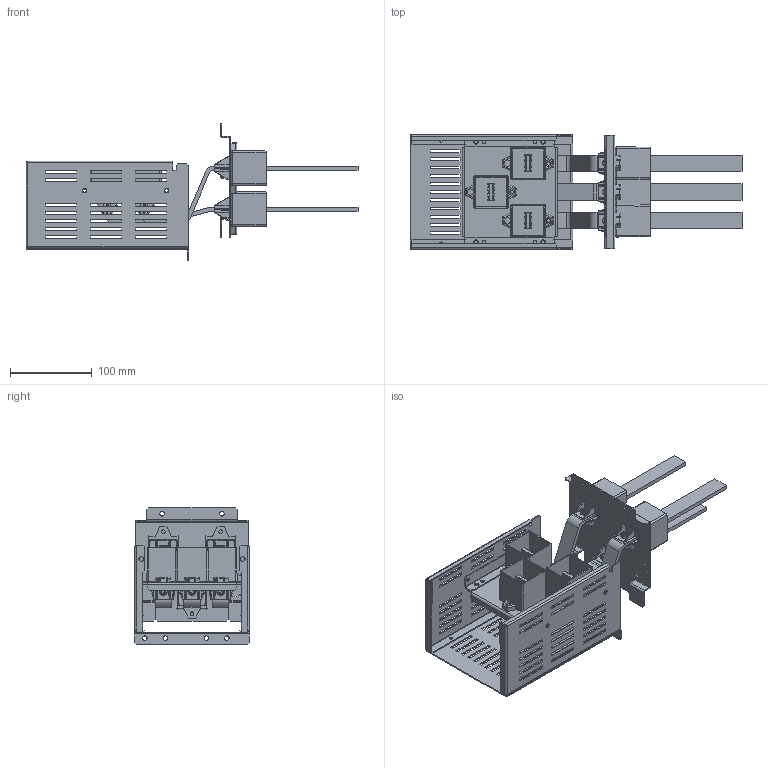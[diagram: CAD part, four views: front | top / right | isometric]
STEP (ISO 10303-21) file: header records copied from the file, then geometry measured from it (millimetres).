
FILE_DESCRIPTION(('CAx-IF Rec.Pracs.---Model Styling and Organization---1.2---2011-12-15','CAx-IF Rec.Pracs.---Geometric and Assembly Validation Properties---4.1---2014-06-16','CAx-IF Rec.Pracs.---PMI Polyline Presentation---2.0---2013-05-24'),'2;1');
FILE_NAME('R5M2W3MST3B.stp','2021-05-05T13:05:17+03:00',(''),(''),'STEP Interface 4.4 by CT CoreTechnologie','3D_Evolution4.4 by CT CoreTechnologie','');
FILE_SCHEMA(('AUTOMOTIVE_DESIGN { 1 0 10303 214 1 1 1 1 }'));
Length unit declared in the file: millimetre
Products named in the file (11): R5M2W3MST3B; RB.1458.00.00.0_-01; RB.1217.00.00.0_-00; V02.ÒÏÀ.08.0041.00.00.0_«ï ¨­áâàãªæ¨¨ ¡¥§ ¯ «ìæ; V02.ÒÏÀ.08.0041.00.00.0_¤«ï ¨­áâàãªæ¨¨ ¯ «¥æ; RB.1583.00.00.1_-00; RB.1583.00.00.1_-01; RB.1242.00.00.0_-00; RB.1410.00.00.1_-00; RB.1263.00.00.0_-00; RB.1263.00.00.0_-01
Assembly tree (22 placements, depth 2):
  R5M2W3MST3B
    RB.1458.00.00.0_-01
    RB.1217.00.00.0_-00  x2
    V02.ÒÏÀ.08.0041.00.00.0_«ï ¨­áâàãªæ¨¨ ¡¥§ ¯ «ìæ  x6
    V02.ÒÏÀ.08.0041.00.00.0_¤«ï ¨­áâàãªæ¨¨ ¯ «¥æ  x6
    RB.1583.00.00.1_-00  x2
    RB.1583.00.00.1_-01
    RB.1242.00.00.0_-00
    RB.1410.00.00.1_-00
    RB.1263.00.00.0_-00
    RB.1263.00.00.0_-01
Bounding box: 405 x 140 x 166.75 mm (x, y, z)
Surface area: 411747.9 mm2 (no closed solid volume)
Topology: 0 solids, 24 shells, 2916 faces, 7518 edges, 4566 vertices
Faces by surface type: plane 1286, bspline 878, cylinder 752
Entity records: 42320 total; most frequent: CARTESIAN_POINT 14445, ORIENTED_EDGE 5754, DIRECTION 5376, EDGE_CURVE 2877, VECTOR 2106, LINE 2106, VERTEX_POINT 1842, AXIS2_PLACEMENT_3D 1635
